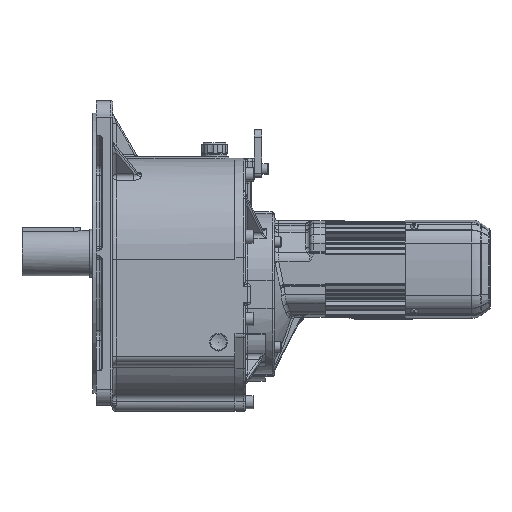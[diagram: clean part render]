
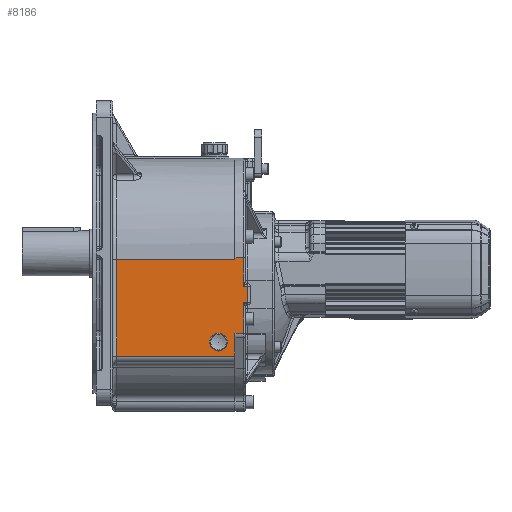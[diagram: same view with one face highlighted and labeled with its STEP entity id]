
A CAD part, left-side view. The second image highlights one B-rep face of the part: STEP entity #8186.
In plain terms, the highlighted planar face has unit normal (-1, 0, 0).
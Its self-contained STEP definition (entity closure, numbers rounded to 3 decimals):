
#8186 = ADVANCED_FACE( '', ( #16854, #16855 ), #16856, .T. );
#16854 = FACE_OUTER_BOUND( '', #55692, .T. );
#16855 = FACE_BOUND( '', #55693, .T. );
#16856 = PLANE( '', #55694 );
#55692 = EDGE_LOOP( '', ( #78315, #78316, #78317, #78318, #78319, #78320, #78321, #78322, #78323, #78324, #78325, #78326 ) );
#55693 = EDGE_LOOP( '', ( #78327 ) );
#55694 = AXIS2_PLACEMENT_3D( '', #78328, #78329, #78330 );
#78315 = ORIENTED_EDGE( '', *, *, #86404, .T. );
#78316 = ORIENTED_EDGE( '', *, *, #82172, .T. );
#78317 = ORIENTED_EDGE( '', *, *, #83873, .T. );
#78318 = ORIENTED_EDGE( '', *, *, #83431, .T. );
#78319 = ORIENTED_EDGE( '', *, *, #80242, .T. );
#78320 = ORIENTED_EDGE( '', *, *, #87309, .T. );
#78321 = ORIENTED_EDGE( '', *, *, #86335, .F. );
#78322 = ORIENTED_EDGE( '', *, *, #81889, .T. );
#78323 = ORIENTED_EDGE( '', *, *, #87189, .T. );
#78324 = ORIENTED_EDGE( '', *, *, #79729, .T. );
#78325 = ORIENTED_EDGE( '', *, *, #81796, .F. );
#78326 = ORIENTED_EDGE( '', *, *, #86246, .T. );
#78327 = ORIENTED_EDGE( '', *, *, #87462, .F. );
#78328 = CARTESIAN_POINT( '', ( -395.914, 109.5, 13.683 ) );
#78329 = DIRECTION( '', ( -1., 0., 0. ) );
#78330 = DIRECTION( '', ( 0., 0., 1. ) );
#79729 = EDGE_CURVE( '', #89746, #89750, #89752, .F. );
#80242 = EDGE_CURVE( '', #90603, #90606, #90608, .F. );
#81796 = EDGE_CURVE( '', #93088, #89750, #93089, .T. );
#81889 = EDGE_CURVE( '', #93226, #93228, #93230, .T. );
#82172 = EDGE_CURVE( '', #91821, #93661, #93663, .F. );
#83431 = EDGE_CURVE( '', #95511, #90603, #95515, .F. );
#83873 = EDGE_CURVE( '', #93661, #95511, #96154, .T. );
#86246 = EDGE_CURVE( '', #93088, #99211, #99214, .T. );
#86335 = EDGE_CURVE( '', #93226, #97865, #99319, .T. );
#86404 = EDGE_CURVE( '', #99211, #91821, #99393, .T. );
#87189 = EDGE_CURVE( '', #93228, #89746, #100229, .T. );
#87309 = EDGE_CURVE( '', #90606, #97865, #100351, .F. );
#87462 = EDGE_CURVE( '', #100503, #100503, #100504, .T. );
#89746 = VERTEX_POINT( '', #106276 );
#89750 = VERTEX_POINT( '', #106302 );
#89752 = LINE( '', #106304, #106305 );
#90603 = VERTEX_POINT( '', #108098 );
#90606 = VERTEX_POINT( '', #108101 );
#90608 = LINE( '', #108165, #108166 );
#91821 = VERTEX_POINT( '', #111076 );
#93088 = VERTEX_POINT( '', #114858 );
#93089 = LINE( '', #114859, #114860 );
#93226 = VERTEX_POINT( '', #115128 );
#93228 = VERTEX_POINT( '', #115130 );
#93230 = LINE( '', #115132, #115133 );
#93661 = VERTEX_POINT( '', #116064 );
#93663 = LINE( '', #116125, #116126 );
#95511 = VERTEX_POINT( '', #120079 );
#95515 = LINE( '', #120084, #120085 );
#96154 = LINE( '', #121579, #121580 );
#97865 = VERTEX_POINT( '', #125620 );
#99211 = VERTEX_POINT( '', #128697 );
#99214 = LINE( '', #128700, #128701 );
#99319 = LINE( '', #129066, #129067 );
#99393 = LINE( '', #129371, #129372 );
#100229 = LINE( '', #131083, #131084 );
#100351 = LINE( '', #131241, #131242 );
#100503 = VERTEX_POINT( '', #131601 );
#100504 = CIRCLE( '', #131602, 10.8 );
#106276 = CARTESIAN_POINT( '', ( -395.914, 253., 11.683 ) );
#106302 = CARTESIAN_POINT( '', ( -395.914, 253., -105.5 ) );
#106304 = CARTESIAN_POINT( '', ( -395.914, 253., -105.5 ) );
#106305 = VECTOR( '', #133434, 1000. );
#108098 = CARTESIAN_POINT( '', ( -395.914, 94., -20.5 ) );
#108101 = CARTESIAN_POINT( '', ( -395.914, 99., -20.5 ) );
#108165 = CARTESIAN_POINT( '', ( -395.914, 99., -20.5 ) );
#108166 = VECTOR( '', #134196, 1000. );
#111076 = CARTESIAN_POINT( '', ( -395.914, 99., -77.968 ) );
#114858 = CARTESIAN_POINT( '', ( -395.914, 109.5, -105.5 ) );
#114859 = CARTESIAN_POINT( '', ( -395.914, 109.5, -105.5 ) );
#114860 = VECTOR( '', #136348, 1000. );
#115128 = CARTESIAN_POINT( '', ( -395.914, 109.5, 13.683 ) );
#115130 = CARTESIAN_POINT( '', ( -395.914, 109.5, 11.683 ) );
#115132 = CARTESIAN_POINT( '', ( -395.914, 109.5, 13.683 ) );
#115133 = VECTOR( '', #136492, 1000. );
#116064 = CARTESIAN_POINT( '', ( -395.914, 99., -40.5 ) );
#116125 = CARTESIAN_POINT( '', ( -395.914, 99., 13.683 ) );
#116126 = VECTOR( '', #136900, 1000. );
#120079 = CARTESIAN_POINT( '', ( -395.914, 94., -40.5 ) );
#120084 = CARTESIAN_POINT( '', ( -395.914, 94., -20.5 ) );
#120085 = VECTOR( '', #138875, 1000. );
#121579 = CARTESIAN_POINT( '', ( -395.914, 91., -40.5 ) );
#121580 = VECTOR( '', #139427, 1000. );
#125620 = CARTESIAN_POINT( '', ( -395.914, 99., 13.683 ) );
#128697 = CARTESIAN_POINT( '', ( -395.914, 109.5, -77.968 ) );
#128700 = CARTESIAN_POINT( '', ( -395.914, 109.5, 11.683 ) );
#128701 = VECTOR( '', #142330, 1000. );
#129066 = CARTESIAN_POINT( '', ( -395.914, 109.5, 13.683 ) );
#129067 = VECTOR( '', #142412, 1000. );
#129371 = CARTESIAN_POINT( '', ( -395.914, 109.5, -77.968 ) );
#129372 = VECTOR( '', #142472, 1000. );
#131083 = CARTESIAN_POINT( '', ( -395.914, 109.5, 11.683 ) );
#131084 = VECTOR( '', #143035, 1000. );
#131241 = CARTESIAN_POINT( '', ( -395.914, 99., 13.683 ) );
#131242 = VECTOR( '', #143086, 1000. );
#131601 = CARTESIAN_POINT( '', ( -395.914, 129.5, -99.3 ) );
#131602 = AXIS2_PLACEMENT_3D( '', #143129, #143130, #143131 );
#133434 = DIRECTION( '', ( 0., 0., 1. ) );
#134196 = DIRECTION( '', ( 0., -1., 0. ) );
#136348 = DIRECTION( '', ( 0., 1., 0. ) );
#136492 = DIRECTION( '', ( 0., 0., -1. ) );
#136900 = DIRECTION( '', ( 0., 0., -1. ) );
#138875 = DIRECTION( '', ( 0., 0., -1. ) );
#139427 = DIRECTION( '', ( 0., -1., 0. ) );
#142330 = DIRECTION( '', ( 0., 0., 1. ) );
#142412 = DIRECTION( '', ( 0., -1., 0. ) );
#142472 = DIRECTION( '', ( 0., -1., 0. ) );
#143035 = DIRECTION( '', ( 0., 1., 0. ) );
#143086 = DIRECTION( '', ( 0., 0., -1. ) );
#143129 = CARTESIAN_POINT( '', ( -395.914, 129.5, -88.5 ) );
#143130 = DIRECTION( '', ( -1., 0., 0. ) );
#143131 = DIRECTION( '', ( 0., 0., -1. ) );
